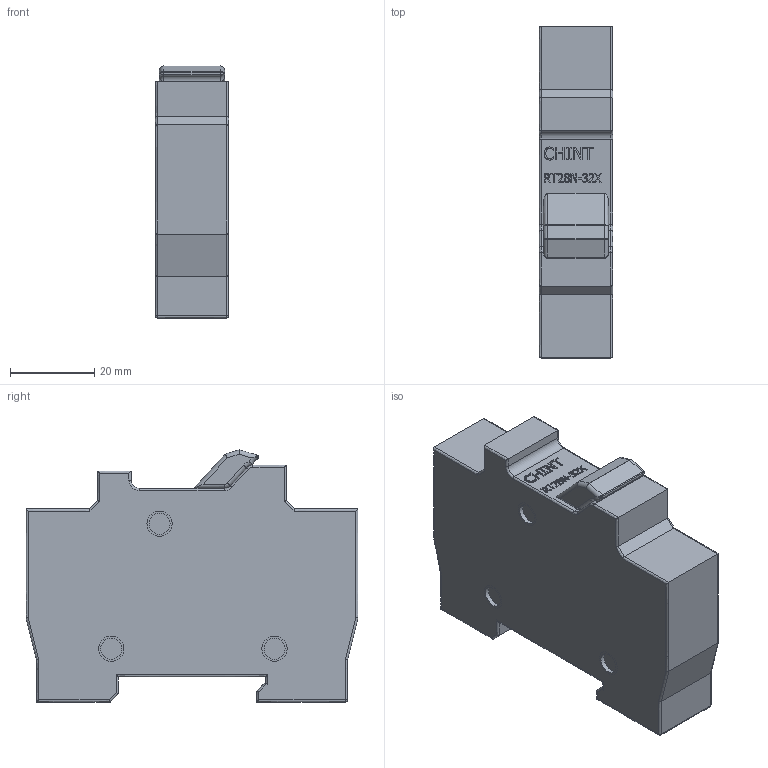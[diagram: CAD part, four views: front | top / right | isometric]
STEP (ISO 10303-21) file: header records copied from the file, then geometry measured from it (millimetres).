
FILE_DESCRIPTION(/* description */ (''),/* implementation_level */ '2;1');
FILE_NAME(/* name */ 'D:\CHINT\RT28\Вставки цил RT28N-32X (CHINT).stp',/* time_stamp */ '2017-09-30T16:04:46+04:00',/* author */ ('RSagdiev'),/* organization */ (''),/* preprocessor_version */ 'ST-DEVELOPER v16.5',/* originating_system */ 'Autodesk Inventor 2017',/* authorisation */ '');
FILE_SCHEMA (('AUTOMOTIVE_DESIGN { 1 0 10303 214 3 1 1 }'));
Length unit declared in the file: millimetre
Products named in the file (1): Вставки цил 
RT28N-32X (CHINT)
Bounding box: 17.5 x 79 x 60.01 mm (x, y, z)
Volume: 65219.9 mm3; surface area: 13309.1 mm2
Topology: 8 solids, 8 shells, 379 faces, 936 edges, 590 vertices
Faces by surface type: plane 184, bspline 123, cylinder 65, torus 7
Full cylindrical faces by diameter (mm): 5 x6, 6 x12
Entity records: 12934 total; most frequent: CARTESIAN_POINT 4693, ORIENTED_EDGE 1824, DIRECTION 1336, EDGE_CURVE 912, LINE 590, VECTOR 590, VERTEX_POINT 590, EDGE_LOOP 432
